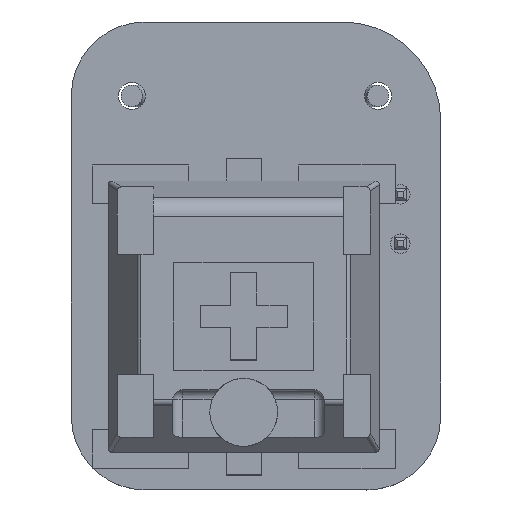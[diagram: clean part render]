
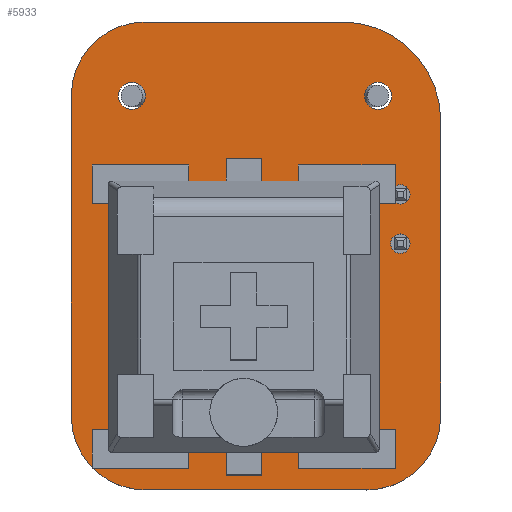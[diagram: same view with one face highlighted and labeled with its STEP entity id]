
A CAD part, top view. The second image highlights one B-rep face of the part: STEP entity #5933.
In plain terms, the highlighted planar face has unit normal (0, 0, 1).
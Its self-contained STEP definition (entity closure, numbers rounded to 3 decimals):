
#5685 = VERTEX_POINT('',#5686);
#5686 = CARTESIAN_POINT('',(127.,-41.91,1.51));
#5692 = EDGE_CURVE('',#5685,#5693,#5695,.T.);
#5693 = VERTEX_POINT('',#5694);
#5694 = CARTESIAN_POINT('',(132.08,-46.99,1.51));
#5695 = CIRCLE('',#5696,5.08);
#5696 = AXIS2_PLACEMENT_3D('',#5697,#5698,#5699);
#5697 = CARTESIAN_POINT('',(127.,-46.99,1.51));
#5698 = DIRECTION('',(0.,0.,-1.));
#5699 = DIRECTION('',(0.,1.,0.));
#5727 = VERTEX_POINT('',#5728);
#5728 = CARTESIAN_POINT('',(116.84,-41.91,1.51));
#5734 = EDGE_CURVE('',#5727,#5685,#5735,.T.);
#5735 = LINE('',#5736,#5737);
#5736 = CARTESIAN_POINT('',(116.84,-41.91,1.51));
#5737 = VECTOR('',#5738,1.);
#5738 = DIRECTION('',(1.,0.,0.));
#5756 = EDGE_CURVE('',#5693,#5757,#5759,.T.);
#5757 = VERTEX_POINT('',#5758);
#5758 = CARTESIAN_POINT('',(132.08,-62.23,1.51));
#5759 = LINE('',#5760,#5761);
#5760 = CARTESIAN_POINT('',(132.08,-46.99,1.51));
#5761 = VECTOR('',#5762,1.);
#5762 = DIRECTION('',(0.,-1.,0.));
#5933 = ADVANCED_FACE('',(#5934,#5980,#5991,#6002,#6013,#6024,#6035,
    #6046,#6057,#6068),#6079,.T.);
#5934 = FACE_BOUND('',#5935,.T.);
#5935 = EDGE_LOOP('',(#5936,#5937,#5938,#5947,#5955,#5964,#5972,#5979));
#5936 = ORIENTED_EDGE('',*,*,#5692,.F.);
#5937 = ORIENTED_EDGE('',*,*,#5734,.F.);
#5938 = ORIENTED_EDGE('',*,*,#5939,.F.);
#5939 = EDGE_CURVE('',#5940,#5727,#5942,.T.);
#5940 = VERTEX_POINT('',#5941);
#5941 = CARTESIAN_POINT('',(113.03,-45.72,1.51));
#5942 = CIRCLE('',#5943,3.81);
#5943 = AXIS2_PLACEMENT_3D('',#5944,#5945,#5946);
#5944 = CARTESIAN_POINT('',(116.84,-45.72,1.51));
#5945 = DIRECTION('',(0.,0.,-1.));
#5946 = DIRECTION('',(-1.,0.,-0.));
#5947 = ORIENTED_EDGE('',*,*,#5948,.F.);
#5948 = EDGE_CURVE('',#5949,#5940,#5951,.T.);
#5949 = VERTEX_POINT('',#5950);
#5950 = CARTESIAN_POINT('',(113.03,-62.23,1.51));
#5951 = LINE('',#5952,#5953);
#5952 = CARTESIAN_POINT('',(113.03,-62.23,1.51));
#5953 = VECTOR('',#5954,1.);
#5954 = DIRECTION('',(0.,1.,0.));
#5955 = ORIENTED_EDGE('',*,*,#5956,.F.);
#5956 = EDGE_CURVE('',#5957,#5949,#5959,.T.);
#5957 = VERTEX_POINT('',#5958);
#5958 = CARTESIAN_POINT('',(116.84,-66.04,1.51));
#5959 = CIRCLE('',#5960,3.81);
#5960 = AXIS2_PLACEMENT_3D('',#5961,#5962,#5963);
#5961 = CARTESIAN_POINT('',(116.84,-62.23,1.51));
#5962 = DIRECTION('',(0.,0.,-1.));
#5963 = DIRECTION('',(0.,-1.,0.));
#5964 = ORIENTED_EDGE('',*,*,#5965,.F.);
#5965 = EDGE_CURVE('',#5966,#5957,#5968,.T.);
#5966 = VERTEX_POINT('',#5967);
#5967 = CARTESIAN_POINT('',(128.27,-66.04,1.51));
#5968 = LINE('',#5969,#5970);
#5969 = CARTESIAN_POINT('',(128.27,-66.04,1.51));
#5970 = VECTOR('',#5971,1.);
#5971 = DIRECTION('',(-1.,0.,0.));
#5972 = ORIENTED_EDGE('',*,*,#5973,.F.);
#5973 = EDGE_CURVE('',#5757,#5966,#5974,.T.);
#5974 = CIRCLE('',#5975,3.81);
#5975 = AXIS2_PLACEMENT_3D('',#5976,#5977,#5978);
#5976 = CARTESIAN_POINT('',(128.27,-62.23,1.51));
#5977 = DIRECTION('',(0.,0.,-1.));
#5978 = DIRECTION('',(1.,0.,0.));
#5979 = ORIENTED_EDGE('',*,*,#5756,.F.);
#5980 = FACE_BOUND('',#5981,.T.);
#5981 = EDGE_LOOP('',(#5982));
#5982 = ORIENTED_EDGE('',*,*,#5983,.T.);
#5983 = EDGE_CURVE('',#5984,#5984,#5986,.T.);
#5984 = VERTEX_POINT('',#5985);
#5985 = CARTESIAN_POINT('',(116.84,-58.025,1.51));
#5986 = CIRCLE('',#5987,0.875);
#5987 = AXIS2_PLACEMENT_3D('',#5988,#5989,#5990);
#5988 = CARTESIAN_POINT('',(116.84,-57.15,1.51));
#5989 = DIRECTION('',(-0.,0.,-1.));
#5990 = DIRECTION('',(-0.,-1.,0.));
#5991 = FACE_BOUND('',#5992,.T.);
#5992 = EDGE_LOOP('',(#5993));
#5993 = ORIENTED_EDGE('',*,*,#5994,.T.);
#5994 = EDGE_CURVE('',#5995,#5995,#5997,.T.);
#5995 = VERTEX_POINT('',#5996);
#5996 = CARTESIAN_POINT('',(121.92,-59.15,1.51));
#5997 = CIRCLE('',#5998,2.);
#5998 = AXIS2_PLACEMENT_3D('',#5999,#6000,#6001);
#5999 = CARTESIAN_POINT('',(121.92,-57.15,1.51));
#6000 = DIRECTION('',(-0.,0.,-1.));
#6001 = DIRECTION('',(-0.,-1.,0.));
#6002 = FACE_BOUND('',#6003,.T.);
#6003 = EDGE_LOOP('',(#6004));
#6004 = ORIENTED_EDGE('',*,*,#6005,.T.);
#6005 = EDGE_CURVE('',#6006,#6006,#6008,.T.);
#6006 = VERTEX_POINT('',#6007);
#6007 = CARTESIAN_POINT('',(118.11,-55.36,1.51));
#6008 = CIRCLE('',#6009,0.75);
#6009 = AXIS2_PLACEMENT_3D('',#6010,#6011,#6012);
#6010 = CARTESIAN_POINT('',(118.11,-54.61,1.51));
#6011 = DIRECTION('',(-0.,0.,-1.));
#6012 = DIRECTION('',(-0.,-1.,0.));
#6013 = FACE_BOUND('',#6014,.T.);
#6014 = EDGE_LOOP('',(#6015));
#6015 = ORIENTED_EDGE('',*,*,#6016,.T.);
#6016 = EDGE_CURVE('',#6017,#6017,#6019,.T.);
#6017 = VERTEX_POINT('',#6018);
#6018 = CARTESIAN_POINT('',(127.,-58.025,1.51));
#6019 = CIRCLE('',#6020,0.875);
#6020 = AXIS2_PLACEMENT_3D('',#6021,#6022,#6023);
#6021 = CARTESIAN_POINT('',(127.,-57.15,1.51));
#6022 = DIRECTION('',(-0.,0.,-1.));
#6023 = DIRECTION('',(-0.,-1.,0.));
#6024 = FACE_BOUND('',#6025,.T.);
#6025 = EDGE_LOOP('',(#6026));
#6026 = ORIENTED_EDGE('',*,*,#6027,.T.);
#6027 = EDGE_CURVE('',#6028,#6028,#6030,.T.);
#6028 = VERTEX_POINT('',#6029);
#6029 = CARTESIAN_POINT('',(130.,-53.84,1.51));
#6030 = CIRCLE('',#6031,0.5);
#6031 = AXIS2_PLACEMENT_3D('',#6032,#6033,#6034);
#6032 = CARTESIAN_POINT('',(130.,-53.34,1.51));
#6033 = DIRECTION('',(-0.,0.,-1.));
#6034 = DIRECTION('',(-0.,-1.,0.));
#6035 = FACE_BOUND('',#6036,.T.);
#6036 = EDGE_LOOP('',(#6037));
#6037 = ORIENTED_EDGE('',*,*,#6038,.T.);
#6038 = EDGE_CURVE('',#6039,#6039,#6041,.T.);
#6039 = VERTEX_POINT('',#6040);
#6040 = CARTESIAN_POINT('',(116.15,-46.42,1.51));
#6041 = CIRCLE('',#6042,0.7);
#6042 = AXIS2_PLACEMENT_3D('',#6043,#6044,#6045);
#6043 = CARTESIAN_POINT('',(116.15,-45.72,1.51));
#6044 = DIRECTION('',(-0.,0.,-1.));
#6045 = DIRECTION('',(0.,-1.,0.));
#6046 = FACE_BOUND('',#6047,.T.);
#6047 = EDGE_LOOP('',(#6048));
#6048 = ORIENTED_EDGE('',*,*,#6049,.T.);
#6049 = EDGE_CURVE('',#6050,#6050,#6052,.T.);
#6050 = VERTEX_POINT('',#6051);
#6051 = CARTESIAN_POINT('',(124.46,-52.82,1.51));
#6052 = CIRCLE('',#6053,0.75);
#6053 = AXIS2_PLACEMENT_3D('',#6054,#6055,#6056);
#6054 = CARTESIAN_POINT('',(124.46,-52.07,1.51));
#6055 = DIRECTION('',(-0.,0.,-1.));
#6056 = DIRECTION('',(-0.,-1.,0.));
#6057 = FACE_BOUND('',#6058,.T.);
#6058 = EDGE_LOOP('',(#6059));
#6059 = ORIENTED_EDGE('',*,*,#6060,.T.);
#6060 = EDGE_CURVE('',#6061,#6061,#6063,.T.);
#6061 = VERTEX_POINT('',#6062);
#6062 = CARTESIAN_POINT('',(130.,-51.3,1.51));
#6063 = CIRCLE('',#6064,0.5);
#6064 = AXIS2_PLACEMENT_3D('',#6065,#6066,#6067);
#6065 = CARTESIAN_POINT('',(130.,-50.8,1.51));
#6066 = DIRECTION('',(-0.,0.,-1.));
#6067 = DIRECTION('',(-0.,-1.,0.));
#6068 = FACE_BOUND('',#6069,.T.);
#6069 = EDGE_LOOP('',(#6070));
#6070 = ORIENTED_EDGE('',*,*,#6071,.T.);
#6071 = EDGE_CURVE('',#6072,#6072,#6074,.T.);
#6072 = VERTEX_POINT('',#6073);
#6073 = CARTESIAN_POINT('',(128.85,-46.42,1.51));
#6074 = CIRCLE('',#6075,0.7);
#6075 = AXIS2_PLACEMENT_3D('',#6076,#6077,#6078);
#6076 = CARTESIAN_POINT('',(128.85,-45.72,1.51));
#6077 = DIRECTION('',(-0.,0.,-1.));
#6078 = DIRECTION('',(0.,-1.,0.));
#6079 = PLANE('',#6080);
#6080 = AXIS2_PLACEMENT_3D('',#6081,#6082,#6083);
#6081 = CARTESIAN_POINT('',(0.,0.,1.51));
#6082 = DIRECTION('',(0.,0.,1.));
#6083 = DIRECTION('',(1.,0.,-0.));
